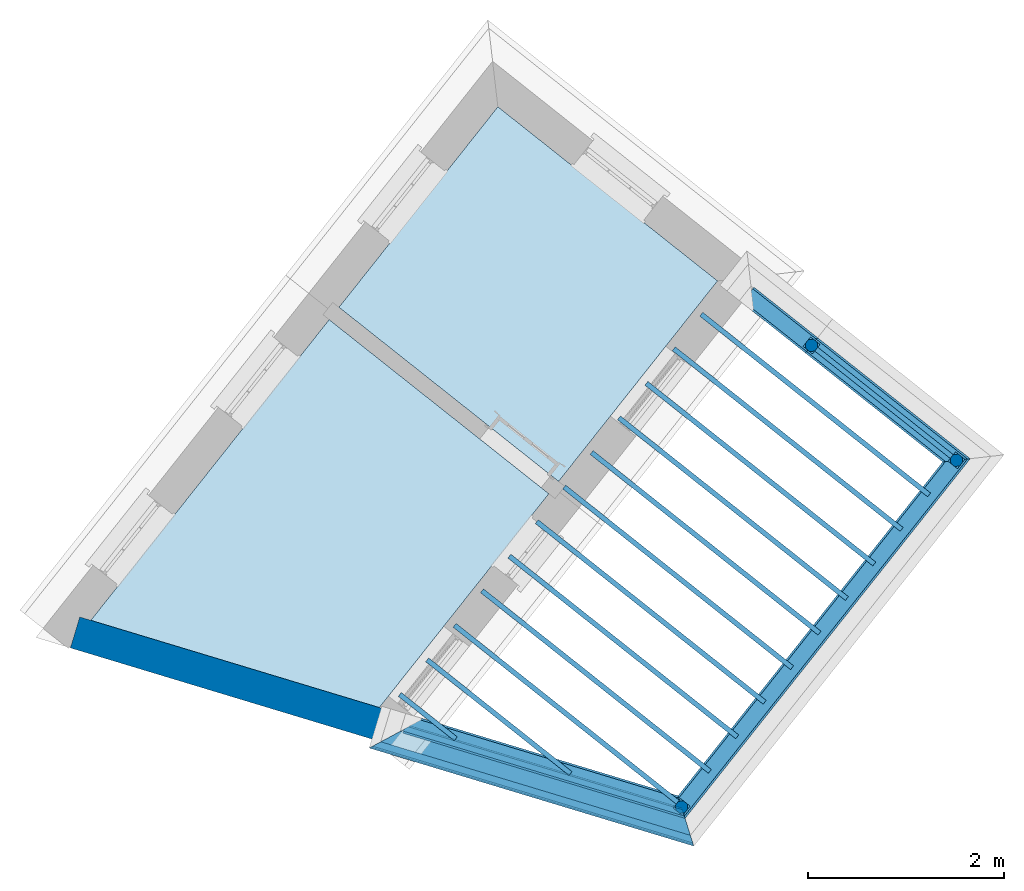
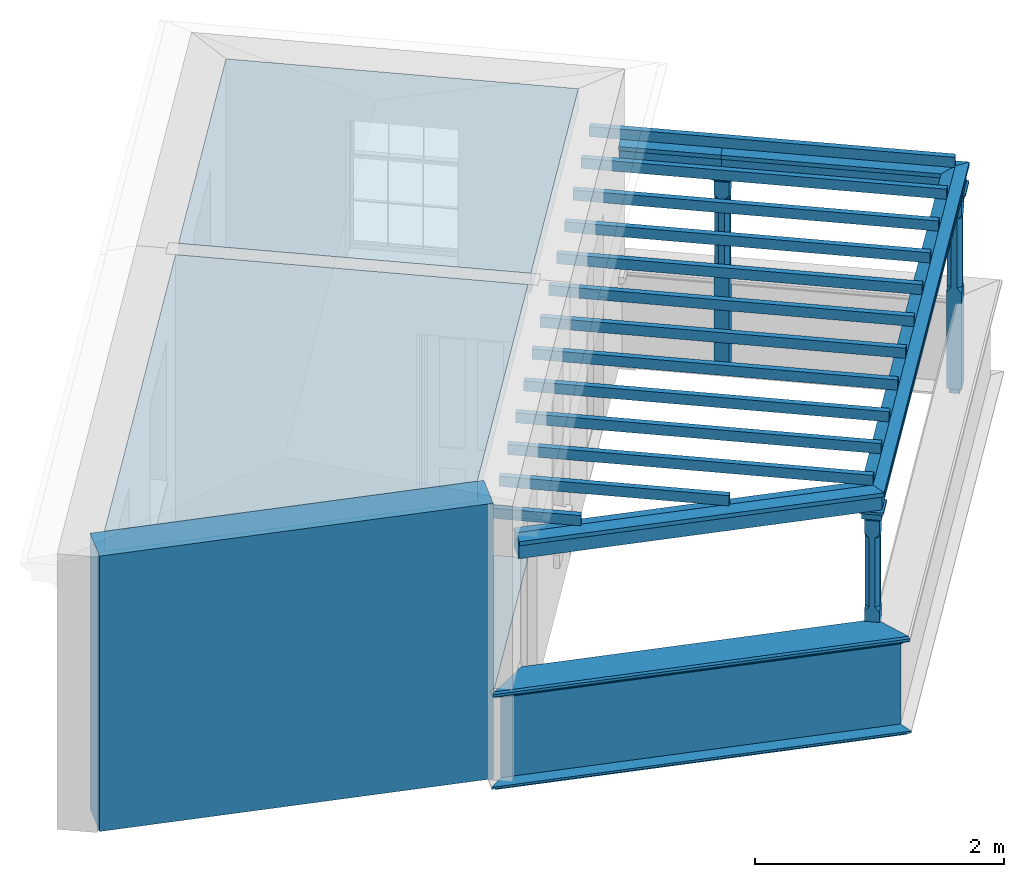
# One storey, part 1 of 5: 21 beams, 4 walls, 3 columns, 3 slabs.
"""IFC4 building model written with IfcOpenShell, lengths in metres."""

from ifc_helpers import new_model, si_unit, frame, origin, origin_with_axes, place, context, subcontext, project, spatial, polyline, outline, extrude, clip, halfspace, faceted_brep, source, transform, mapped, material, layer, layer_set, layer_usage, material_profile, profile_set, profile_usage, type_object, type_shapes, element, save


model = new_model("IFC4")

# Units and contexts
model_context = context("Model", 3, world=origin_with_axes())
body_context = subcontext(model_context, "Body", "Model", "MODEL_VIEW")
ifc_project = project(units=[si_unit("PLANEANGLEUNIT", "RADIAN"), si_unit("MASSUNIT", "GRAM", prefix="KILO"), si_unit("FORCEUNIT", "NEWTON", prefix="KILO"), si_unit("LENGTHUNIT", "METRE"), si_unit("AREAUNIT", "SQUARE_METRE"), si_unit("VOLUMEUNIT", "CUBIC_METRE")], contexts=[model_context, model_context])

# Sites, building, storey
site_1_placement = place(None, origin_with_axes())
site_1 = spatial("IfcSite", under=ifc_project, at=site_1_placement, Name="Tamar")
site_2_placement = place(site_1_placement, origin_with_axes())
site_2 = spatial("IfcSite", under=site_1, at=site_2_placement, Name="Site plot-5", CompositionType="ELEMENT")
building_placement = place(None, origin_with_axes())
building = spatial("IfcBuilding", under=site_2, at=building_placement, Name="Building plot-5", CompositionType="ELEMENT")
storey_placement = place(None, frame((0.0, 0.0, 30.15), z_axis=(0.0, 0.0, 1.0), x_axis=(1.0, 0.0, 0.0)))
storey = spatial("IfcBuildingStorey", under=building, at=storey_placement, Name="plot-5 2", CompositionType="ELEMENT", Elevation=30.15)

# Columns
column_type = type_object("IfcColumnType", Name="pergola post", PredefinedType="NOTDEFINED")
shared_shape = source(origin(), body_context, "Body", "Brep", [
    faceted_brep([(0.0246, -0.0615, 1.72), (0.0615, -0.0246, 1.72), (0.0615, -0.0615, 1.766667), (0.0615, -0.0246, 1.044444), (0.0246, -0.0615, 1.044444), (0.0615, 0.0246, 1.72), (0.0615, 0.0615, 1.766667), (-0.0246, -0.0615, 1.72), (-0.0615, -0.0615, 1.766667), (-0.0246, -0.0615, 1.044444), (0.0615, -0.0615, 0.997778), (0.0615, 0.0246, 1.044444), (0.0246, 0.0615, 1.72), (0.0615, 0.0615, 1.891111), (0.0615, -0.0615, 1.891111), (-0.0615, -0.0615, 1.891111), (-0.0615, -0.0246, 1.72), (-0.0615, -0.0246, 1.044444), (-0.0615, -0.0615, 0.997778), (0.0615, 0.0615, 0.997778), (0.0246, 0.0615, 1.044444), (-0.0246, 0.0615, 1.72), (-0.0615, 0.0615, 1.766667), (0.04305, 0.04305, 1.891111), (0.04305, -0.04305, 1.891111), (-0.0615, 0.0615, 1.891111), (-0.04305, -0.04305, 1.891111), (-0.0615, 0.0246, 1.72), (-0.0615, 0.0246, 1.044444), (0.0615, -0.0615, 0.053333), (-0.0615, -0.0615, 0.053333), (0.0615, 0.0615, 0.053333), (-0.0246, 0.0615, 1.044444), (-0.04305, 0.04305, 1.891111), (0.04305, 0.04305, 1.914444), (0.04305, -0.04305, 1.914444), (-0.04305, -0.04305, 1.914444), (-0.0615, 0.0615, 0.997778), (-0.0615, 0.0615, 0.053333), (-0.04305, -0.04305, 0.053333), (0.04305, -0.04305, 0.053333), (0.04305, 0.04305, 0.053333), (-0.04305, 0.04305, 1.914444), (0.07995, 0.07995, 1.914444), (0.07995, -0.07995, 1.914444), (-0.07995, -0.07995, 1.914444), (-0.04305, 0.04305, 0.053333), (-0.04305, -0.04305, 0.0), (0.04305, -0.04305, 0.0), (0.04305, 0.04305, 0.0), (-0.07995, 0.07995, 1.914444), (0.07995, 0.07995, 1.976667), (0.07995, -0.07995, 1.976667), (-0.07995, -0.07995, 1.976667), (-0.04305, 0.04305, 0.0), (-0.07995, 0.07995, 1.976667), (0.0984, 0.0984, 1.976667), (0.0984, -0.0984, 1.976667), (-0.0984, -0.0984, 1.976667), (-0.0984, 0.0984, 1.976667), (0.0984, 0.0984, 2.0), (0.0984, -0.0984, 2.0), (-0.0984, -0.0984, 2.0), (-0.0984, 0.0984, 2.0)], [[[0, 1, 2]], [[3, 1, 0, 4]], [[1, 5, 6, 2]], [[7, 0, 2, 8]], [[4, 0, 7, 9]], [[3, 4, 10]], [[1, 3, 11, 5]], [[5, 12, 6]], [[13, 14, 2, 6]], [[15, 8, 2, 14]], [[8, 16, 7]], [[9, 7, 16, 17]], [[9, 18, 10, 4]], [[3, 10, 19, 11]], [[20, 12, 5, 11]], [[21, 22, 6, 12]], [[14, 13, 23, 24]], [[13, 6, 22, 25]], [[25, 22, 8, 15]], [[26, 15, 14, 24]], [[16, 8, 22, 27]], [[27, 28, 17, 16]], [[17, 18, 9]], [[29, 10, 18, 30]], [[31, 19, 10, 29]], [[20, 11, 19]], [[12, 20, 32, 21]], [[21, 27, 22]], [[33, 23, 13, 25]], [[23, 34, 35, 24]], [[26, 33, 25, 15]], [[36, 26, 24, 35]], [[28, 27, 21, 32]], [[17, 28, 37, 18]], [[38, 30, 18, 37]], [[29, 30, 39, 40]], [[31, 38, 37, 19]], [[40, 41, 31, 29]], [[32, 20, 19, 37]], [[33, 42, 34, 23]], [[43, 44, 35, 34]], [[42, 33, 26, 36]], [[36, 35, 44, 45]], [[28, 32, 37]], [[46, 39, 30, 38]], [[39, 47, 48, 40]], [[46, 38, 31, 41]], [[49, 41, 40, 48]], [[43, 34, 42, 50]], [[43, 51, 52, 44]], [[45, 50, 42, 36]], [[53, 45, 44, 52]], [[46, 54, 47, 39]], [[54, 46, 41, 49]], [[50, 55, 51, 43]], [[56, 57, 52, 51]], [[55, 50, 45, 53]], [[53, 52, 57, 58]], [[56, 51, 55, 59]], [[56, 60, 61, 57]], [[58, 59, 55, 53]], [[62, 58, 57, 61]], [[59, 63, 60, 56]], [[63, 62, 61, 60]], [[58, 62, 63, 59]], [[47, 54, 49, 48]]]),
])
type_shapes(column_type, [shared_shape])
for number, where, z_axis, x_axis, name in (
    (1, (231.403804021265, 270.295503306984, 0.0), (0.0, 0.0, 1.0), (0.621192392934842, 0.783658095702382, 0.0), "pergola post"),
    (2, (234.208321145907, 273.833509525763, 0.0), (0.0, 0.0, 1.0), (-0.783658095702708, 0.621192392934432, 0.0), "pergola post"),
    (3, (232.729546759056, 275.005708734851, 0.0), (0.0, 0.0, 1.0), (-0.783658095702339, 0.621192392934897, 0.0), "pergola post"),
):
    element("IfcColumn", number, at=place(storey_placement, frame(where, z_axis=z_axis, x_axis=x_axis)), inside=storey, type_object=column_type, Name=name, context=body_context, shape_type="MappedRepresentation", body=[
        mapped(shared_shape, transform((0.0, 0.0, 0.0), scale=1.0)),
    ])

# Beams
ifc_material_profile_1 = material_profile(None, outline(polyline([(-0.08, -0.7), (0.08, -0.7), (0.08, -0.56), (-0.08, -0.56), (-0.08, -0.7)])))
ifc_profile_set_1 = profile_set([ifc_material_profile_1])
ifc_profile_usage_1 = profile_usage(ifc_profile_set_1)
beam_type_1 = type_object("IfcBeamType", Name="pergola beam_0", PredefinedType="NOTDEFINED", material=ifc_profile_set_1)
beam_1_placement = place(storey_placement, frame((232.361022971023, 270.006138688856, 2.7), z_axis=(-0.957218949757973, 0.289364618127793, 0.0), x_axis=(-0.289364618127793, -0.957218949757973, 0.0)))
element("IfcBeam", 4, at=beam_1_placement, inside=storey, type_object=beam_type_1, material=ifc_profile_usage_1, Name="pergola beam_0", context=body_context, shape_type="Clipping", body=[
    clip(clip(extrude(outline(polyline([(-0.08, -0.7), (0.08, -0.7), (0.08, -0.56), (-0.08, -0.56), (-0.08, -0.7)])), origin_with_axes(), (0.0, 0.0, 1.0), 4.94049941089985), halfspace(frame((0.0, 0.0, 3.94049941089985), z_axis=(-4.50212443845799e-15, 0.0, -1.0), x_axis=(0.0, 1.0, 0.0)), True)), halfspace(frame((0.0, 0.0, 1.0), z_axis=(-0.562203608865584, 0.0, -0.826998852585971), x_axis=(0.0, 1.0, 0.0)), False)),
])
ifc_profile_usage_2 = profile_usage(ifc_profile_set_1)
beam_2_placement = place(storey_placement, frame((234.829513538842, 274.617167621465, 2.7), z_axis=(-0.621192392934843, -0.783658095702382, 0.0), x_axis=(0.783658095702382, -0.621192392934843, 0.0)))
element("IfcBeam", 5, at=beam_2_placement, inside=storey, type_object=beam_type_1, material=ifc_profile_usage_2, Name="pergola beam_0", context=body_context, shape_type="Clipping", body=[
    clip(clip(extrude(outline(polyline([(-0.08, -0.7), (0.08, -0.7), (0.08, -0.56), (-0.08, -0.56), (-0.08, -0.7)])), origin_with_axes(), (0.0, 0.0, 1.0), 6.51473191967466), halfspace(frame((0.0, 0.0, 5.51473191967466), z_axis=(0.562203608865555, 0.0, -0.826998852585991), x_axis=(0.0, 1.0, 0.0)), True)), halfspace(frame((0.0, 0.0, 1.0), z_axis=(-0.707106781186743, 0.0, -0.707106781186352), x_axis=(0.0, 1.0, 0.0)), False)),
])
ifc_profile_usage_3 = profile_usage(ifc_profile_set_1)
beam_3_placement = place(storey_placement, frame((231.945888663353, 275.626901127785, 2.7), z_axis=(0.783658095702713, -0.621192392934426, 0.0), x_axis=(0.621192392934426, 0.783658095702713, 0.0)))
element("IfcBeam", 6, at=beam_3_placement, inside=storey, type_object=beam_type_1, material=ifc_profile_usage_3, Name="pergola beam_0", context=body_context, shape_type="Clipping", body=[
    clip(clip(extrude(outline(polyline([(-0.08, -0.7), (0.08, -0.7), (0.08, -0.56), (-0.08, -0.56), (-0.08, -0.7)])), origin_with_axes(), (0.0, 0.0, 1.0), 3.8870147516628), halfspace(frame((0.0, 0.0, 2.8870147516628), z_axis=(0.707106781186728, 0.0, -0.707106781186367), x_axis=(0.0, 1.0, 0.0)), True)), halfspace(frame((0.0, 0.0, 1.0), z_axis=(1.27103528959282e-15, 0.0, -1.0), x_axis=(0.0, 1.0, 0.0)), False)),
])
ifc_profile_usage_4 = profile_usage(ifc_profile_set_1)
beam_4_placement = place(storey_placement, frame((231.295626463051, 276.142352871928, 2.7), z_axis=(0.783658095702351, -0.621192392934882, 0.0), x_axis=(0.621192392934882, 0.783658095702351, 0.0)))
element("IfcBeam", 7, at=beam_4_placement, inside=storey, type_object=beam_type_1, material=ifc_profile_usage_4, Name="pergola beam_0", context=body_context, shape_type="Clipping", body=[
    clip(clip(extrude(outline(polyline([(-0.08, -0.7), (0.08, -0.7), (0.08, -0.56), (-0.08, -0.56), (-0.08, -0.7)])), origin_with_axes(), (0.0, 0.0, 1.0), 2.82977793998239), halfspace(frame((0.0, 0.0, 1.82977793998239), z_axis=(-5.81818097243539e-13, 0.0, -1.0), x_axis=(0.0, 1.0, 0.0)), True)), halfspace(frame((0.0, 0.0, 1.0), z_axis=(-1.38279978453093e-14, 0.0, -1.0), x_axis=(0.0, 1.0, 0.0)), False)),
])
ifc_material_profile_2 = material_profile(None, outline(polyline([(0.0, -0.5), (-0.1, -0.52), (-0.1, -0.56), (0.1, -0.56), (0.1, -0.52), (0.0, -0.5)])))
ifc_profile_set_2 = profile_set([ifc_material_profile_2])
ifc_profile_usage_5 = profile_usage(ifc_profile_set_2)
beam_type_2 = type_object("IfcBeamType", Name="pergola beam_1", PredefinedType="NOTDEFINED", material=ifc_profile_set_2)
beam_5_placement = place(storey_placement, frame((232.361022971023, 270.006138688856, 2.7), z_axis=(-0.957218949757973, 0.289364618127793, 0.0), x_axis=(-0.289364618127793, -0.957218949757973, 0.0)))
element("IfcBeam", 8, at=beam_5_placement, inside=storey, type_object=beam_type_2, material=ifc_profile_usage_5, Name="pergola beam_1", context=body_context, shape_type="Clipping", body=[
    clip(clip(extrude(outline(polyline([(0.0, -0.5), (-0.1, -0.52), (-0.1, -0.56), (0.1, -0.56), (0.1, -0.52), (0.0, -0.5)])), origin_with_axes(), (0.0, 0.0, 1.0), 4.94049941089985), halfspace(frame((0.0, 0.0, 3.94049941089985), z_axis=(-4.50212443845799e-15, 0.0, -1.0), x_axis=(0.0, 1.0, 0.0)), True)), halfspace(frame((0.0, 0.0, 1.0), z_axis=(-0.562203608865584, 0.0, -0.826998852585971), x_axis=(0.0, 1.0, 0.0)), False)),
])
ifc_profile_usage_6 = profile_usage(ifc_profile_set_2)
beam_6_placement = place(storey_placement, frame((234.829513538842, 274.617167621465, 2.7), z_axis=(-0.621192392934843, -0.783658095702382, 0.0), x_axis=(0.783658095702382, -0.621192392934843, 0.0)))
element("IfcBeam", 9, at=beam_6_placement, inside=storey, type_object=beam_type_2, material=ifc_profile_usage_6, Name="pergola beam_1", context=body_context, shape_type="Clipping", body=[
    clip(clip(extrude(outline(polyline([(0.0, -0.5), (-0.1, -0.52), (-0.1, -0.56), (0.1, -0.56), (0.1, -0.52), (0.0, -0.5)])), origin_with_axes(), (0.0, 0.0, 1.0), 6.51473191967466), halfspace(frame((0.0, 0.0, 5.51473191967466), z_axis=(0.562203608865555, 0.0, -0.826998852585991), x_axis=(0.0, 1.0, 0.0)), True)), halfspace(frame((0.0, 0.0, 1.0), z_axis=(-0.707106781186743, 0.0, -0.707106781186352), x_axis=(0.0, 1.0, 0.0)), False)),
])
ifc_profile_usage_7 = profile_usage(ifc_profile_set_2)
beam_7_placement = place(storey_placement, frame((231.945888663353, 275.626901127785, 2.7), z_axis=(0.783658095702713, -0.621192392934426, 0.0), x_axis=(0.621192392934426, 0.783658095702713, 0.0)))
element("IfcBeam", 10, at=beam_7_placement, inside=storey, type_object=beam_type_2, material=ifc_profile_usage_7, Name="pergola beam_1", context=body_context, shape_type="Clipping", body=[
    clip(clip(extrude(outline(polyline([(0.0, -0.5), (-0.1, -0.52), (-0.1, -0.56), (0.1, -0.56), (0.1, -0.52), (0.0, -0.5)])), origin_with_axes(), (0.0, 0.0, 1.0), 3.8870147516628), halfspace(frame((0.0, 0.0, 2.8870147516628), z_axis=(0.707106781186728, 0.0, -0.707106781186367), x_axis=(0.0, 1.0, 0.0)), True)), halfspace(frame((0.0, 0.0, 1.0), z_axis=(1.27103528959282e-15, 0.0, -1.0), x_axis=(0.0, 1.0, 0.0)), False)),
])
ifc_profile_usage_8 = profile_usage(ifc_profile_set_2)
beam_8_placement = place(storey_placement, frame((231.295626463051, 276.142352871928, 2.7), z_axis=(0.783658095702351, -0.621192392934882, 0.0), x_axis=(0.621192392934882, 0.783658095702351, 0.0)))
element("IfcBeam", 11, at=beam_8_placement, inside=storey, type_object=beam_type_2, material=ifc_profile_usage_8, Name="pergola beam_1", context=body_context, shape_type="Clipping", body=[
    clip(clip(extrude(outline(polyline([(0.0, -0.5), (-0.1, -0.52), (-0.1, -0.56), (0.1, -0.56), (0.1, -0.52), (0.0, -0.5)])), origin_with_axes(), (0.0, 0.0, 1.0), 2.82977793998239), halfspace(frame((0.0, 0.0, 1.82977793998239), z_axis=(-5.81818097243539e-13, 0.0, -1.0), x_axis=(0.0, 1.0, 0.0)), True)), halfspace(frame((0.0, 0.0, 1.0), z_axis=(-1.38279978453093e-14, 0.0, -1.0), x_axis=(0.0, 1.0, 0.0)), False)),
])
beam_9_placement = place(storey_placement, frame((231.898899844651, 275.69605002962, 2.2)))
element("IfcBeam", 12, at=beam_9_placement, inside=storey, Name="My Beam", ObjectType="Beam", context=body_context, shape_type="SweptSolid", body=[
    extrude(outline(polyline([(0.0, 0.0), (-0.0310596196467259, -0.0391829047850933), (2.29389149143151, -1.88213195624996), (2.32495111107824, -1.84294905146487), (0.0, 0.0)])), origin_with_axes(), (0.0, 0.0, 1.0), 0.1),
])
beam_10_placement = place(storey_placement, frame((231.619363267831, 275.343403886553, 2.2)))
element("IfcBeam", 13, at=beam_10_placement, inside=storey, Name="My Beam", ObjectType="Beam", context=body_context, shape_type="SweptSolid", body=[
    extrude(outline(polyline([(0.0, 0.0), (-0.0310596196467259, -0.0391829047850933), (2.29389149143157, -1.88213195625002), (2.32495111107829, -1.84294905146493), (0.0, 0.0)])), origin_with_axes(), (0.0, 0.0, 1.0), 0.1),
])
beam_11_placement = place(storey_placement, frame((231.33982669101, 274.990757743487, 2.2)))
element("IfcBeam", 14, at=beam_11_placement, inside=storey, Name="My Beam", ObjectType="Beam", context=body_context, shape_type="SweptSolid", body=[
    extrude(outline(polyline([(0.0, 0.0), (-0.0310596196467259, -0.0391829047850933), (2.29389149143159, -1.88213195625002), (2.32495111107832, -1.84294905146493), (0.0, 0.0)])), origin_with_axes(), (0.0, 0.0, 1.0), 0.1),
])
beam_12_placement = place(storey_placement, frame((231.060290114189, 274.638111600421, 2.2)))
element("IfcBeam", 15, at=beam_12_placement, inside=storey, Name="My Beam", ObjectType="Beam", context=body_context, shape_type="SweptSolid", body=[
    extrude(outline(polyline([(0.0, 0.0), (-0.0310596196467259, -0.0391829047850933), (2.29389149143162, -1.88213195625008), (2.32495111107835, -1.84294905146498), (0.0, 0.0)])), origin_with_axes(), (0.0, 0.0, 1.0), 0.1),
])
for number, where, name in (
    (16, (230.780753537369, 274.285465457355, 2.2), "My Beam"),
    (17, (230.501216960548, 273.932819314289, 2.2), "My Beam"),
):
    element("IfcBeam", number, at=place(storey_placement, frame(where)), inside=storey, Name=name, ObjectType="Beam", context=body_context, shape_type="SweptSolid", body=[
        extrude(outline(polyline([(0.0, 0.0), (-0.0310596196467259, -0.0391829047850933), (2.29389149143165, -1.88213195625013), (2.32495111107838, -1.84294905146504), (0.0, 0.0)])), origin_with_axes(), (0.0, 0.0, 1.0), 0.1),
    ])
beam_13_placement = place(storey_placement, frame((230.221680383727, 273.580173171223, 2.2)))
element("IfcBeam", 18, at=beam_13_placement, inside=storey, Name="My Beam", ObjectType="Beam", context=body_context, shape_type="SweptSolid", body=[
    extrude(outline(polyline([(0.0, 0.0), (-0.0310596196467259, -0.0391829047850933), (2.29389149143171, -1.88213195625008), (2.32495111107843, -1.84294905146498), (0.0, 0.0)])), origin_with_axes(), (0.0, 0.0, 1.0), 0.1),
])
beam_14_placement = place(storey_placement, frame((229.942143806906, 273.227527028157, 2.2)))
element("IfcBeam", 19, at=beam_14_placement, inside=storey, Name="My Beam", ObjectType="Beam", context=body_context, shape_type="SweptSolid", body=[
    extrude(outline(polyline([(0.0, 0.0), (-0.0310596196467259, -0.0391829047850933), (2.29389149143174, -1.88213195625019), (2.32495111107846, -1.8429490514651), (0.0, 0.0)])), origin_with_axes(), (0.0, 0.0, 1.0), 0.1),
])
beam_15_placement = place(storey_placement, frame((229.662607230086, 272.874880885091, 2.2)))
element("IfcBeam", 20, at=beam_15_placement, inside=storey, Name="My Beam", ObjectType="Beam", context=body_context, shape_type="SweptSolid", body=[
    extrude(outline(polyline([(0.0, 0.0), (-0.0310596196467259, -0.0391829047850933), (2.29389149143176, -1.88213195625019), (2.32495111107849, -1.8429490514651), (0.0, 0.0)])), origin_with_axes(), (0.0, 0.0, 1.0), 0.1),
])
beam_16_placement = place(storey_placement, frame((229.383070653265, 272.522234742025, 2.2)))
element("IfcBeam", 21, at=beam_16_placement, inside=storey, Name="My Beam", ObjectType="Beam", context=body_context, shape_type="SweptSolid", body=[
    extrude(outline(polyline([(0.0, 0.0), (-0.0310596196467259, -0.0391829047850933), (2.29389149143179, -1.88213195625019), (2.32495111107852, -1.8429490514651), (0.0, 0.0)])), origin_with_axes(), (0.0, 0.0, 1.0), 0.1),
])
beam_17_placement = place(storey_placement, frame((229.103534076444, 272.169588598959, 2.2)))
element("IfcBeam", 22, at=beam_17_placement, inside=storey, Name="My Beam", ObjectType="Beam", context=body_context, shape_type="SweptSolid", body=[
    extrude(outline(polyline([(0.0, 0.0), (-0.0310596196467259, -0.0391829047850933), (2.29389149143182, -1.88213195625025), (2.32495111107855, -1.84294905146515), (0.0, 0.0)])), origin_with_axes(), (0.0, 0.0, 1.0), 0.1),
])
beam_18_placement = place(storey_placement, frame((228.823997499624, 271.816942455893, 2.2)))
element("IfcBeam", 23, at=beam_18_placement, inside=storey, Name="My Beam", ObjectType="Beam", context=body_context, shape_type="SweptSolid", body=[
    extrude(outline(polyline([(0.0, 0.0), (-0.0310596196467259, -0.0391829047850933), (1.43163543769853, -1.19863630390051), (1.46269505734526, -1.15945339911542), (0.0, 0.0)])), origin_with_axes(), (0.0, 0.0, 1.0), 0.1),
])
beam_19_placement = place(storey_placement, frame((228.544460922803, 271.464296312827, 2.2)))
element("IfcBeam", 24, at=beam_19_placement, inside=storey, Name="My Beam", ObjectType="Beam", context=body_context, shape_type="SweptSolid", body=[
    extrude(outline(polyline([(0.0, 0.0), (-0.0310596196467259, -0.0391829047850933), (0.540195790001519, -0.492007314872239), (0.571255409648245, -0.452824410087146), (0.0, 0.0)])), origin_with_axes(), (0.0, 0.0, 1.0), 0.1),
])

# Slabs
slab_1_placement = place(storey_placement, frame((229.529471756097, 277.440268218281, 2.5)))
element("IfcSlab", 25, at=slab_1_placement, inside=storey, Name="My Slab", ObjectType="Slab", PredefinedType="FLOOR", context=body_context, shape_type="SweptSolid", body=[
    extrude(outline(polyline([(0.0, 0.0), (-1.62173936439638, -2.04588658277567), (0.619770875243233, -3.82269348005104), (2.24151023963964, -1.77680689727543), (0.0, 0.0)])), origin_with_axes(), (0.0, 0.0, 1.0), 0.2),
])
slab_2_placement = place(storey_placement, frame((227.808341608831, 275.268996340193, 2.5)))
element("IfcSlab", 26, at=slab_2_placement, inside=storey, Name="My Slab", ObjectType="Slab", PredefinedType="FLOOR", context=body_context, shape_type="SweptSolid", body=[
    extrude(outline(polyline([(0.0, 0.0), (-2.43185355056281, -3.06787678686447), (0.512546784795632, -3.95796079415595), (2.24151023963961, -1.77680689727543), (0.0, 0.0)])), origin_with_axes(), (0.0, 0.0, 1.0), 0.2),
])
slab_3_placement = place(storey_placement, frame((227.808341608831, 275.268996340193, 0.0)))
element("IfcSlab", 27, at=slab_3_placement, inside=storey, Name="My Slab", ObjectType="Slab", PredefinedType="FLOOR", context=body_context, shape_type="SweptSolid", body=[
    extrude(outline(polyline([(0.0, 0.0), (-2.43185355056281, -3.06787678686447), (0.512546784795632, -3.95796079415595), (2.24151023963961, -1.77680689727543), (0.0, 0.0)])), origin_with_axes(), (0.0, 0.0, 1.0), 0.02),
])

# Walls
ifc_material = material(Name="Masonry")
ifc_layer = layer(ifc_material, 0.33, ventilated=False)
ifc_layer_set = layer_set([ifc_layer], Name="party_0.08_0.25")
ifc_layer_usage = layer_usage(ifc_layer_set, "AXIS2", "POSITIVE", -0.25)
wall_type_1 = type_object("IfcWallType", Name="party_0.08_0.25", PredefinedType="SOLIDWALL", material=ifc_layer_set)
wall_1_placement = place(storey_placement, frame((225.240693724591, 272.158594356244, 0.0), z_axis=(0.0, 0.0, 1.0), x_axis=(0.95721894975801, -0.289364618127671, 0.0)))
element("IfcWall", 28, at=wall_1_placement, inside=storey, type_object=wall_type_1, material=ifc_layer_usage, Name="party", context=body_context, shape_type="SweptSolid", body=[
    extrude(outline(polyline([(1.65691044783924e-15, 0.08000000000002), (-6.04112858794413e-15, -0.250000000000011), (3.24805918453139, -0.25000000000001), (3.2480591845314, 0.08000000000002), (1.65691044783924e-15, 0.08000000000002)])), origin_with_axes(), (0.0, 0.0, 1.0), 2.7),
])
ifc_material_profile_3 = material_profile(None, outline(polyline([(0.25, 0.0), (0.25, 0.795), (0.09, 0.795), (0.09, 0.02), (-0.08, 0.02), (-0.08, 0.0), (0.25, 0.0)])))
ifc_profile_set_3 = profile_set([ifc_material_profile_3])
ifc_profile_usage_9 = profile_usage(ifc_profile_set_3)
wall_type_2 = type_object("IfcWallType", Name="parapet_0", PredefinedType="PARAPET", material=ifc_profile_set_3)
wall_2_placement = place(storey_placement, frame((232.361022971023, 270.006138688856, 0.0), z_axis=(-0.95721894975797, 0.289364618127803, 0.0), x_axis=(-0.289364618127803, -0.95721894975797, 0.0)))
element("IfcWall", 29, at=wall_2_placement, inside=storey, type_object=wall_type_2, material=ifc_profile_usage_9, Name="parapet_0", context=body_context, shape_type="Clipping", body=[
    clip(clip(extrude(outline(polyline([(0.25, 0.0), (0.25, 0.795), (0.09, 0.795), (0.09, 0.02), (-0.08, 0.02), (-0.08, 0.0), (0.25, 0.0)])), origin_with_axes(), (0.0, 0.0, 1.0), 4.88049941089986), halfspace(frame((0.0, 0.0, 3.88049941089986), z_axis=(0.707106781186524, 0.0, -0.707106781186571), x_axis=(0.0, 1.0, 0.0)), True)), halfspace(frame((0.0, 0.0, 1.0), z_axis=(-0.562203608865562, 0.0, -0.826998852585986), x_axis=(0.0, 1.0, 0.0)), False)),
])
ifc_material_profile_4 = material_profile(None, outline(polyline([(0.265, 0.795), (0.268, 0.807), (0.274, 0.816), (0.283, 0.822), (0.295, 0.825), (0.295, 0.84), (0.305, 0.84), (0.317, 0.842), (0.326, 0.849), (0.333, 0.858), (0.335, 0.87), (0.333, 0.882), (0.326, 0.891), (0.317, 0.898), (0.305, 0.9), (0.035, 0.9), (0.023, 0.898), (0.014, 0.891), (0.007, 0.882), (0.005, 0.87), (0.007, 0.858), (0.014, 0.849), (0.023, 0.842), (0.035, 0.84), (0.045, 0.84), (0.045, 0.825), (0.057, 0.822), (0.066, 0.816), (0.072, 0.807), (0.075, 0.795), (0.265, 0.795)])))
ifc_profile_set_4 = profile_set([ifc_material_profile_4])
ifc_profile_usage_10 = profile_usage(ifc_profile_set_4)
wall_type_3 = type_object("IfcWallType", Name="parapet_1", PredefinedType="PARAPET", material=ifc_profile_set_4)
wall_3_placement = place(storey_placement, frame((232.361022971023, 270.006138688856, 0.0), z_axis=(-0.95721894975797, 0.289364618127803, 0.0), x_axis=(-0.289364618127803, -0.95721894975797, 0.0)))
element("IfcWall", 30, at=wall_3_placement, inside=storey, type_object=wall_type_3, material=ifc_profile_usage_10, Name="parapet_1", context=body_context, shape_type="Clipping", body=[
    clip(clip(extrude(outline(polyline([(0.265, 0.795), (0.268, 0.807), (0.274, 0.816), (0.283, 0.822), (0.295, 0.825), (0.295, 0.84), (0.305, 0.84), (0.317, 0.842), (0.326, 0.849), (0.333, 0.858), (0.335, 0.87), (0.333, 0.882), (0.326, 0.891), (0.317, 0.898), (0.305, 0.9), (0.035, 0.9), (0.023, 0.898), (0.014, 0.891), (0.007, 0.882), (0.005, 0.87), (0.007, 0.858), (0.014, 0.849), (0.023, 0.842), (0.035, 0.84), (0.045, 0.84), (0.045, 0.825), (0.057, 0.822), (0.066, 0.816), (0.072, 0.807), (0.075, 0.795), (0.265, 0.795)])), origin_with_axes(), (0.0, 0.0, 1.0), 4.88049941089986), halfspace(frame((0.0, 0.0, 3.88049941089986), z_axis=(0.707106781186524, 0.0, -0.707106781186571), x_axis=(0.0, 1.0, 0.0)), True)), halfspace(frame((0.0, 0.0, 1.0), z_axis=(-0.562203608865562, 0.0, -0.826998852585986), x_axis=(0.0, 1.0, 0.0)), False)),
])
ifc_material_profile_5 = material_profile(None, outline(polyline([(0.25, -0.1), (0.265, -0.1), (0.265, -0.085), (0.278, -0.084), (0.289, -0.081), (0.301, -0.074), (0.309, -0.065), (0.315, -0.055), (0.324, -0.044), (0.334, -0.038), (0.345, -0.035), (0.345, -0.015), (0.25, 0.0), (0.25, -0.1)])))
ifc_profile_set_5 = profile_set([ifc_material_profile_5])
ifc_profile_usage_11 = profile_usage(ifc_profile_set_5)
wall_type_4 = type_object("IfcWallType", Name="parapet_2", PredefinedType="PARAPET", material=ifc_profile_set_5)
wall_4_placement = place(storey_placement, frame((232.361022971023, 270.006138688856, 0.0), z_axis=(-0.95721894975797, 0.289364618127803, 0.0), x_axis=(-0.289364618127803, -0.95721894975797, 0.0)))
element("IfcWall", 31, at=wall_4_placement, inside=storey, type_object=wall_type_4, material=ifc_profile_usage_11, Name="parapet_2", context=body_context, shape_type="Clipping", body=[
    clip(clip(extrude(outline(polyline([(0.25, -0.1), (0.265, -0.1), (0.265, -0.085), (0.278, -0.084), (0.289, -0.081), (0.301, -0.074), (0.309, -0.065), (0.315, -0.055), (0.324, -0.044), (0.334, -0.038), (0.345, -0.035), (0.345, -0.015), (0.25, 0.0), (0.25, -0.1)])), origin_with_axes(), (0.0, 0.0, 1.0), 4.88049941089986), halfspace(frame((0.0, 0.0, 3.88049941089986), z_axis=(0.707106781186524, 0.0, -0.707106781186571), x_axis=(0.0, 1.0, 0.0)), True)), halfspace(frame((0.0, 0.0, 1.0), z_axis=(-0.562203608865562, 0.0, -0.826998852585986), x_axis=(0.0, 1.0, 0.0)), False)),
])

save(model, "model.ifc")
